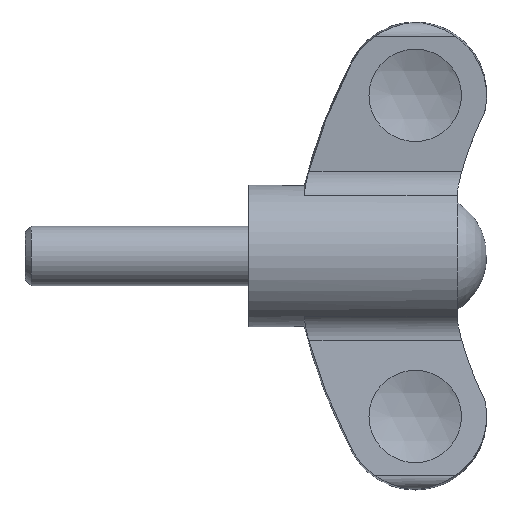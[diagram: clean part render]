
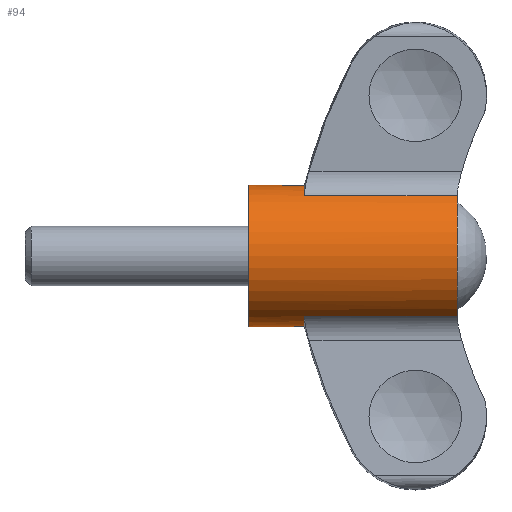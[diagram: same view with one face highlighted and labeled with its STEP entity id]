
A CAD part, top view. The second image highlights one B-rep face of the part: STEP entity #94.
In plain terms, the highlighted cylindrical face has radius 9.5 mm (diameter 19 mm), a full revolution.
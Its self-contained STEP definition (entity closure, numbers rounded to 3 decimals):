
#94 = ADVANCED_FACE( '', ( #148, #149 ), #150, .T. );
#148 = FACE_OUTER_BOUND( '', #294, .T. );
#149 = FACE_OUTER_BOUND( '', #295, .T. );
#150 = CYLINDRICAL_SURFACE( '', #296, 9.5 );
#294 = EDGE_LOOP( '', ( #456, #457, #458, #459, #460, #461, #462, #463 ) );
#295 = EDGE_LOOP( '', ( #464 ) );
#296 = AXIS2_PLACEMENT_3D( '', #465, #466, #467 );
#456 = ORIENTED_EDGE( '', *, *, #559, .F. );
#457 = ORIENTED_EDGE( '', *, *, #544, .F. );
#458 = ORIENTED_EDGE( '', *, *, #585, .F. );
#459 = ORIENTED_EDGE( '', *, *, #594, .T. );
#460 = ORIENTED_EDGE( '', *, *, #569, .F. );
#461 = ORIENTED_EDGE( '', *, *, #567, .F. );
#462 = ORIENTED_EDGE( '', *, *, #583, .F. );
#463 = ORIENTED_EDGE( '', *, *, #532, .T. );
#464 = ORIENTED_EDGE( '', *, *, #593, .T. );
#465 = CARTESIAN_POINT( '', ( 32., 0., 0. ) );
#466 = DIRECTION( '', ( -1., 0., 0. ) );
#467 = DIRECTION( '', ( 0., 0., -1. ) );
#532 = EDGE_CURVE( '', #600, #601, #602, .T. );
#544 = EDGE_CURVE( '', #621, #623, #624, .T. );
#559 = EDGE_CURVE( '', #623, #601, #652, .T. );
#567 = EDGE_CURVE( '', #663, #665, #666, .T. );
#569 = EDGE_CURVE( '', #665, #668, #669, .T. );
#583 = EDGE_CURVE( '', #600, #663, #690, .T. );
#585 = EDGE_CURVE( '', #691, #621, #693, .T. );
#593 = EDGE_CURVE( '', #704, #704, #705, .T. );
#594 = EDGE_CURVE( '', #691, #668, #706, .T. );
#600 = VERTEX_POINT( '', #716 );
#601 = VERTEX_POINT( '', #717 );
#602 = LINE( '', #718, #719 );
#621 = VERTEX_POINT( '', #768 );
#623 = VERTEX_POINT( '', #775 );
#624 = LINE( '', #776, #777 );
#652 = CIRCLE( '', #939, 9.5 );
#663 = VERTEX_POINT( '', #961 );
#665 = VERTEX_POINT( '', #968 );
#666 = LINE( '', #969, #970 );
#668 = VERTEX_POINT( '', #983 );
#669 = CIRCLE( '', #984, 9.5 );
#690 = CIRCLE( '', #1089, 9.5 );
#691 = VERTEX_POINT( '', #1090 );
#693 = CIRCLE( '', #1097, 9.5 );
#704 = VERTEX_POINT( '', #1162 );
#705 = CIRCLE( '', #1163, 9.5 );
#706 = LINE( '', #1164, #1165 );
#716 = CARTESIAN_POINT( '', ( 28.062, 8.079, 4.997 ) );
#717 = CARTESIAN_POINT( '', ( 7.499, 8.079, 4.997 ) );
#718 = CARTESIAN_POINT( '', ( 32., 8.079, 4.997 ) );
#719 = VECTOR( '', #1176, 1000. );
#768 = CARTESIAN_POINT( '', ( 28.062, 8.079, -4.997 ) );
#775 = CARTESIAN_POINT( '', ( 7.499, 8.079, -4.997 ) );
#776 = CARTESIAN_POINT( '', ( 32., 8.079, -4.997 ) );
#777 = VECTOR( '', #1191, 1000. );
#939 = AXIS2_PLACEMENT_3D( '', #1196, #1197, #1198 );
#961 = CARTESIAN_POINT( '', ( 28.062, -8.079, 4.997 ) );
#968 = CARTESIAN_POINT( '', ( 7.499, -8.079, 4.997 ) );
#969 = CARTESIAN_POINT( '', ( 32., -8.079, 4.997 ) );
#970 = VECTOR( '', #1206, 1000. );
#983 = CARTESIAN_POINT( '', ( 7.499, -8.079, -4.997 ) );
#984 = AXIS2_PLACEMENT_3D( '', #1207, #1208, #1209 );
#1089 = AXIS2_PLACEMENT_3D( '', #1225, #1226, #1227 );
#1090 = CARTESIAN_POINT( '', ( 28.062, -8.079, -4.997 ) );
#1097 = AXIS2_PLACEMENT_3D( '', #1228, #1229, #1230 );
#1162 = CARTESIAN_POINT( '', ( 0., 0., -9.5 ) );
#1163 = AXIS2_PLACEMENT_3D( '', #1240, #1241, #1242 );
#1164 = CARTESIAN_POINT( '', ( 32., -8.079, -4.997 ) );
#1165 = VECTOR( '', #1243, 1000. );
#1176 = DIRECTION( '', ( -1., 0., 0. ) );
#1191 = DIRECTION( '', ( -1., 0., 0. ) );
#1196 = CARTESIAN_POINT( '', ( 7.499, 0., 0. ) );
#1197 = DIRECTION( '', ( 1., 0., 0. ) );
#1198 = DIRECTION( '', ( 0., 0., -1. ) );
#1206 = DIRECTION( '', ( -1., 0., 0. ) );
#1207 = CARTESIAN_POINT( '', ( 7.499, 0., 0. ) );
#1208 = DIRECTION( '', ( 1., 0., 0. ) );
#1209 = DIRECTION( '', ( 0., 0., -1. ) );
#1225 = CARTESIAN_POINT( '', ( 28.062, 0., 0. ) );
#1226 = DIRECTION( '', ( 1., 0., 0. ) );
#1227 = DIRECTION( '', ( 0., 0., -1. ) );
#1228 = CARTESIAN_POINT( '', ( 28.062, 0., 0. ) );
#1229 = DIRECTION( '', ( 1., 0., 0. ) );
#1230 = DIRECTION( '', ( 0., 0., -1. ) );
#1240 = CARTESIAN_POINT( '', ( 0., 0., 0. ) );
#1241 = DIRECTION( '', ( 1., 0., 0. ) );
#1242 = DIRECTION( '', ( 0., 0., -1. ) );
#1243 = DIRECTION( '', ( -1., 0., 0. ) );
